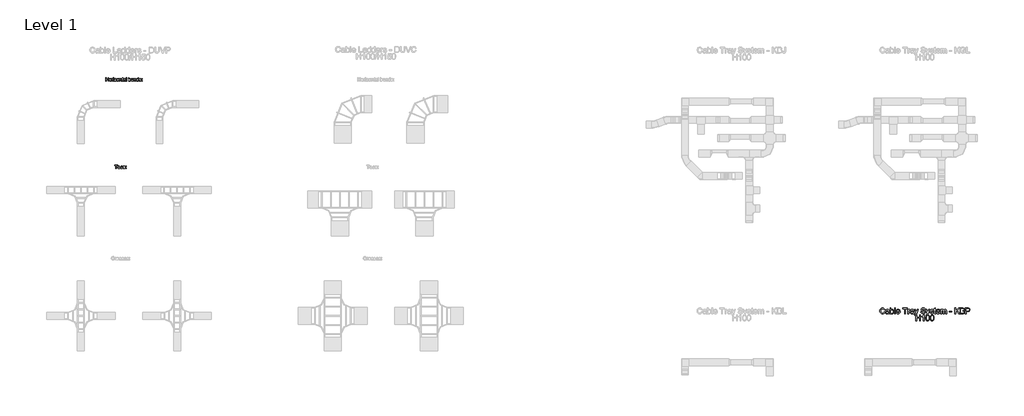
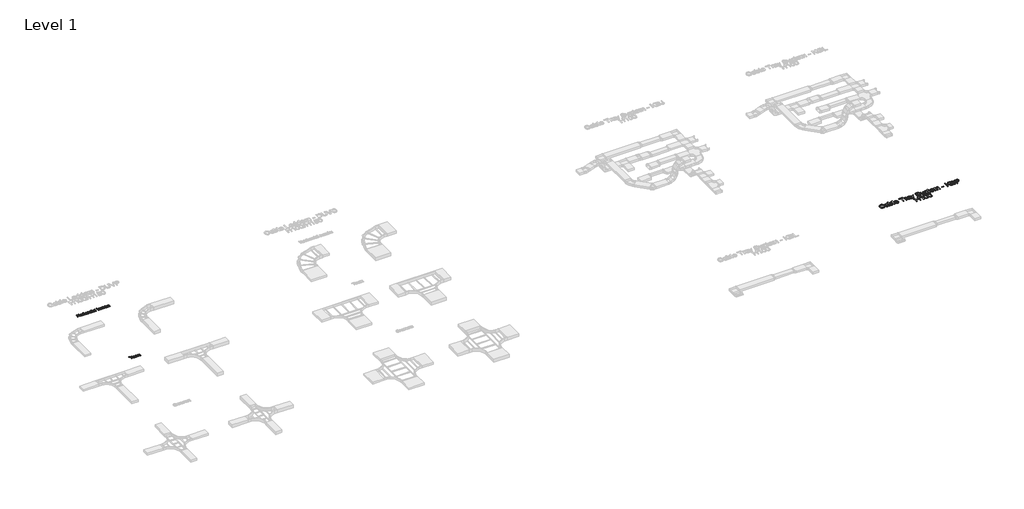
# One storey, part 100 of 106: 3 proxies.
"""IFC4 building model written with IfcOpenShell, lengths in millimetres."""

from ifc_helpers import new_model, si_unit, origin, origin_with_axes, place, context, project, spatial, polyline, outline, extrude, element, save

model = new_model("IFC4")

# Units and contexts
model_context = context("Model", 3, world=origin())
ifc_project = project(units=[si_unit("LENGTHUNIT", "METRE", prefix="MILLI")], contexts=[model_context])

# Site, building, storey
site = spatial("IfcSite", under=ifc_project)
building = spatial("IfcBuilding", under=site)
storey = spatial("IfcBuildingStorey", under=building, Name="Level 1", Elevation=0.0)

# Proxies
placement = place(None, origin())
element("IfcBuildingElementProxy", 1, Name="150mm Arial 2", ObjectType="150mm Arial 2", at=placement, inside=storey, context=model_context, shape_type="SweptSolid", body=[
    extrude(outline(polyline([(131665.8833156, 70274.2713912), (131665.8833156, 70424.9558564), (131684.7188737, 70424.9558564), (131684.7188737, 70363.7402924), (131764.7699959, 70363.7402924), (131764.7699959, 70424.9558564), (131783.605554, 70424.9558564), (131783.605554, 70274.2713912), (131764.7699959, 70274.2713912), (131764.7699959, 70344.9047343), (131684.7188737, 70344.9047343), (131684.7188737, 70274.2713912), (131665.8833156, 70274.2713912)])), origin_with_axes(), (0.0, 0.0, 1.0), 15.0),
    extrude(outline(polyline([(131809.5044465, 70329.6008433), (131813.5787396, 70356.281485), (131825.8016189, 70375.0342697), (131840.9031748, 70384.2221225), (131858.9845748, 70387.2847401), (131878.7720277, 70383.5553364), (131894.5771579, 70372.3671252), (131904.9376346, 70354.6030234), (131908.3911268, 70331.1459476), (131906.8644165, 70312.1172514), (131902.2842857, 70297.6318979), (131894.7840915, 70286.7839775), (131884.4971912, 70278.667581), (131872.2789104, 70273.6046051), (131858.9845748, 70271.9169464), (131838.9579987, 70275.6325546), (131823.1712626, 70286.779379), (131812.9211505, 70304.9159614), (131809.5044465, 70329.6008433)]), holes=[polyline([(131828.3400046, 70329.6376315), (131830.5197055, 70312.5908995), (131837.0588079, 70300.4461951), (131846.8996513, 70293.1759272), (131858.9845748, 70290.7525046), (131871.0143161, 70293.1897228), (131880.8367654, 70300.5013774), (131887.3758678, 70312.8070302), (131889.5555686, 70330.2262427), (131887.3620722, 70346.7763339), (131880.7815831, 70358.7554914), (131870.9453382, 70366.0257593), (131858.9845748, 70368.449182), (131846.8996513, 70366.0349564), (131837.0588079, 70358.7922796), (131830.5197055, 70346.6751664), (131828.3400046, 70329.6376315)])]), origin_with_axes(), (0.0, 0.0, 1.0), 15.0),
    extrude(outline(polyline([(131929.5811297, 70274.2713912), (131929.5811297, 70384.9302953), (131946.0622431, 70384.9302953), (131946.0622431, 70368.5595466), (131957.7608906, 70383.6427084), (131969.5331144, 70387.2847401), (131988.4422489, 70381.4722046), (131982.1514668, 70364.586421), (131968.907715, 70368.449182), (131958.2575312, 70364.7335738), (131951.4701084, 70354.4328779), (131948.4166879, 70332.4335346), (131948.4166879, 70274.2713912), (131929.5811297, 70274.2713912)])), origin_with_axes(), (0.0, 0.0, 1.0), 15.0),
    extrude(outline(polyline([(132000.2144728, 70406.1202983), (132000.2144728, 70424.9558564), (132019.0500309, 70424.9558564), (132019.0500309, 70406.1202983), (132000.2144728, 70406.1202983)])), origin_with_axes(), (0.0, 0.0, 1.0), 15.0),
    extrude(outline(polyline([(132000.2144728, 70274.2713912), (132000.2144728, 70384.9302953), (132019.0500309, 70384.9302953), (132019.0500309, 70274.2713912), (132000.2144728, 70274.2713912)])), origin_with_axes(), (0.0, 0.0, 1.0), 15.0),
    extrude(outline(polyline([(132035.5311443, 70274.2713912), (132035.5311443, 70292.0033034), (132100.5358929, 70366.0947372), (132081.2956645, 70366.0947372), (132040.2400339, 70366.0947372), (132040.2400339, 70384.9302953), (132127.3544903, 70384.9302953), (132127.3544903, 70368.9274285), (132069.7073817, 70303.186916), (132060.8782138, 70293.1069493), (132082.6568279, 70293.1069493), (132129.7089351, 70293.1069493), (132129.7089351, 70274.2713912), (132035.5311443, 70274.2713912)])), origin_with_axes(), (0.0, 0.0, 1.0), 15.0),
    extrude(outline(polyline([(132143.8356037, 70329.6008433), (132147.9098968, 70356.281485), (132160.1327761, 70375.0342697), (132175.234332, 70384.2221225), (132193.3157321, 70387.2847401), (132213.1031849, 70383.5553364), (132228.9083151, 70372.3671252), (132239.2687918, 70354.6030234), (132242.722284, 70331.1459476), (132241.1955737, 70312.1172514), (132236.6154429, 70297.6318979), (132229.1152487, 70286.7839775), (132218.8283484, 70278.667581), (132206.6100677, 70273.6046051), (132193.3157321, 70271.9169464), (132173.2891559, 70275.6325546), (132157.5024198, 70286.779379), (132147.2523077, 70304.9159614), (132143.8356037, 70329.6008433)]), holes=[polyline([(132162.6711619, 70329.6376315), (132164.8508627, 70312.5908995), (132171.3899651, 70300.4461951), (132181.2308085, 70293.1759272), (132193.3157321, 70290.7525046), (132205.3454733, 70293.1897228), (132215.1679226, 70300.5013774), (132221.707025, 70312.8070302), (132223.8867259, 70330.2262427), (132221.6932295, 70346.7763339), (132215.1127403, 70358.7554914), (132205.2764954, 70366.0257593), (132193.3157321, 70368.449182), (132181.2308085, 70366.0349564), (132171.3899651, 70358.7922796), (132164.8508627, 70346.6751664), (132162.6711619, 70329.6376315)])]), origin_with_axes(), (0.0, 0.0, 1.0), 15.0),
    extrude(outline(polyline([(132263.9122869, 70274.2713912), (132263.9122869, 70384.9302953), (132282.7478451, 70384.9302953), (132282.7478451, 70369.4792515), (132297.1504252, 70382.833368), (132316.8137178, 70387.2847401), (132334.6008123, 70383.6978907), (132346.7409182, 70374.2801116), (132352.3879068, 70360.4293545), (132353.3811882, 70342.2191957), (132353.3811882, 70274.2713912), (132334.54563, 70274.2713912), (132334.54563, 70339.6808099), (132332.3751262, 70356.3458643), (132324.7047866, 70365.1566381), (132311.7737345, 70368.449182), (132300.7418732, 70366.6005749), (132291.3378897, 70361.0547538), (132284.8953562, 70350.3401907), (132282.7478451, 70332.9853576), (132282.7478451, 70274.2713912), (132263.9122869, 70274.2713912)])), origin_with_axes(), (0.0, 0.0, 1.0), 15.0),
    extrude(outline(polyline([(132419.3056417, 70289.9799524), (132421.6600865, 70273.7195682), (132407.5702061, 70271.9169464), (132391.7880685, 70275.0439434), (132383.9153938, 70283.2477119), (132381.6345254, 70304.6216558), (132381.6345254, 70366.0947372), (132367.5078568, 70366.0947372), (132367.5078568, 70384.9302953), (132381.6345254, 70384.9302953), (132381.6345254, 70411.8224692), (132400.4700835, 70422.8957172), (132400.4700835, 70384.9302953), (132419.3056417, 70384.9302953), (132419.3056417, 70366.0947372), (132400.4700835, 70366.0947372), (132400.4700835, 70305.1734788), (132401.4633649, 70295.4613941), (132404.6823324, 70292.0216975), (132411.1018732, 70290.7525046), (132419.3056417, 70289.9799524)])), origin_with_axes(), (0.0, 0.0, 1.0), 15.0),
    extrude(outline(polyline([(132508.7745429, 70288.3980598), (132490.5092019, 70275.6325546), (132470.3308744, 70271.9169464), (132454.5901236, 70274.1518295), (132442.9788481, 70280.8564789), (132435.8189448, 70291.0376131), (132433.4323103, 70303.7019508), (132437.0375539, 70318.6011716), (132446.5105152, 70329.4169023), (132459.6990848, 70335.5973198), (132475.9962572, 70338.4300111), (132508.6641783, 70344.9047343), (132508.7745429, 70349.098589), (132507.4777589, 70357.5046926), (132503.5874068, 70363.0045284), (132494.8869976, 70367.0880186), (132482.7652859, 70368.449182), (132463.7089985, 70364.8255443), (132454.6223132, 70351.9680686), (132435.7867551, 70354.3225133), (132443.9353413, 70372.7166131), (132460.3428783, 70383.4955556), (132485.193307, 70387.2847401), (132508.0203848, 70383.9370139), (132520.9146488, 70375.5309104), (132526.6903961, 70362.747011), (132527.6101011, 70346.2658976), (132527.6101011, 70322.8318145), (132528.5665943, 70290.1087111), (132532.3189906, 70274.2713912), (132513.4834325, 70274.2713912), (132508.7745429, 70288.3980598)]), holes=[polyline([(132508.7745429, 70326.0691761), (132478.3874901, 70320.2934288), (132462.1822882, 70317.2400082), (132454.8430424, 70312.2736013), (132452.2678685, 70305.026326), (132457.8780689, 70294.8359947), (132474.3407882, 70290.7525046), (132493.3970755, 70295.259059), (132505.6843342, 70306.1667602), (132508.6641783, 70320.7348872), (132508.7745429, 70326.0691761)])]), origin_with_axes(), (0.0, 0.0, 1.0), 15.0),
    extrude(outline(polyline([(132553.5089935, 70274.2713912), (132553.5089935, 70424.9558564), (132572.3445517, 70424.9558564), (132572.3445517, 70274.2713912), (132553.5089935, 70274.2713912)])), origin_with_axes(), (0.0, 0.0, 1.0), 15.0),
    extrude(outline(polyline([(132678.2945663, 70274.2713912), (132659.4590082, 70274.2713912), (132659.4590082, 70424.9558564), (132678.2945663, 70424.9558564), (132678.2945663, 70369.0745813), (132691.4831358, 70382.7322004), (132707.8722787, 70387.2847401), (132726.7446251, 70383.1828559), (132741.3863285, 70371.6497553), (132750.3810433, 70353.715508), (132753.6367989, 70331.2563122), (132750.2660801, 70306.1115779), (132740.1539238, 70287.4047784), (132725.3144838, 70275.7889044), (132707.7619141, 70271.9169464), (132691.0140863, 70276.9109445), (132678.2945663, 70291.8929388), (132678.2945663, 70274.2713912)]), holes=[polyline([(132678.2945663, 70330.3733955), (132679.5821533, 70314.6648343), (132683.4449142, 70304.0330446), (132693.3133488, 70294.0726396), (132706.1432333, 70290.7525046), (132717.0141463, 70293.1989198), (132726.3031667, 70300.5381656), (132732.6767222, 70312.7242567), (132734.8012408, 70329.7112079), (132732.7640942, 70346.9464793), (132726.6526546, 70358.9946147), (132717.6533413, 70366.0855401), (132706.9525737, 70368.449182), (132696.0816608, 70366.0027667), (132686.7926404, 70358.6635209), (132680.4190848, 70346.698159), (132678.2945663, 70330.3733955)])]), origin_with_axes(), (0.0, 0.0, 1.0), 15.0),
    extrude(outline(polyline([(132852.30275, 70307.233618), (132870.7704262, 70304.8791732), (132864.1163606, 70290.9640367), (132853.4983665, 70280.5621733), (132839.1555672, 70274.0782531), (132821.327086, 70271.9169464), (132799.2265752, 70275.6463501), (132782.2212299, 70286.8345613), (132771.3779081, 70304.755013), (132767.7634675, 70328.6811383), (132771.4146963, 70353.4120054), (132782.3683827, 70371.9072727), (132799.1438017, 70383.4403733), (132820.2602282, 70387.2847401), (132840.7190657, 70383.4495703), (132857.0668219, 70371.9440609), (132867.7859835, 70353.4855818), (132871.3590374, 70328.7915029), (132871.2486728, 70323.7147313), (132786.5990257, 70323.7147313), (132789.8593799, 70309.6156539), (132797.4331504, 70299.2505787), (132808.3638442, 70292.8770231), (132821.694968, 70290.7525046), (132840.1626442, 70294.6888419), (132852.30275, 70307.233618)]), holes=[polyline([(132786.5990257, 70342.5502895), (132852.5234792, 70342.5502895), (132849.9758964, 70352.5014975), (132844.9818983, 70359.6200141), (132834.0006208, 70366.24189), (132820.1866518, 70368.449182), (132807.4901245, 70366.6879469), (132796.991692, 70361.4042417), (132789.693833, 70353.1682836), (132786.5990257, 70342.5502895)])]), origin_with_axes(), (0.0, 0.0, 1.0), 15.0),
    extrude(outline(polyline([(132890.1945955, 70274.2713912), (132890.1945955, 70384.9302953), (132909.0301537, 70384.9302953), (132909.0301537, 70369.4792515), (132923.4327338, 70382.833368), (132943.0960264, 70387.2847401), (132960.8831209, 70383.6978907), (132973.0232267, 70374.2801116), (132978.6702154, 70360.4293545), (132979.6634968, 70342.2191957), (132979.6634968, 70274.2713912), (132960.8279386, 70274.2713912), (132960.8279386, 70339.6808099), (132958.6574348, 70356.3458643), (132950.9870952, 70365.1566381), (132938.0560431, 70368.449182), (132927.0241818, 70366.6005749), (132917.6201983, 70361.0547538), (132911.1776648, 70350.3401907), (132909.0301537, 70332.9853576), (132909.0301537, 70274.2713912), (132890.1945955, 70274.2713912)])), origin_with_axes(), (0.0, 0.0, 1.0), 15.0),
    extrude(outline(polyline([(133073.8412875, 70274.2713912), (133073.8412875, 70292.0400916), (133061.3792849, 70276.9477327), (133044.1532105, 70271.9169464), (133031.9763165, 70273.7379623), (133020.829492, 70279.2010099), (133011.3933188, 70287.9244117), (133004.3483786, 70299.5264902), (132999.9613858, 70313.5381956), (132998.4990549, 70329.4904787), (133003.8885261, 70359.4728613), (133010.6207666, 70371.3646468), (133020.0385457, 70380.1110412), (133031.429092, 70385.4913154), (133044.0796341, 70387.2847401), (133061.4436643, 70382.1527863), (133073.8412875, 70368.8170639), (133073.8412875, 70424.9558564), (133092.6768457, 70424.9558564), (133092.6768457, 70274.2713912), (133073.8412875, 70274.2713912)]), holes=[polyline([(133017.3346131, 70329.5640551), (133019.4591316, 70312.5265202), (133025.8326871, 70300.4094069), (133035.0941164, 70293.1667302), (133045.8822559, 70290.7525046), (133056.6657969, 70293.0563656), (133065.6927013, 70299.9679485), (133071.804141, 70311.6160122), (133073.8412875, 70328.1293153), (133071.7673528, 70346.1831242), (133065.5455485, 70358.7003091), (133056.2887178, 70366.0119637), (133045.1097037, 70368.449182), (133034.2111996, 70366.1085328), (133025.2808642, 70359.0865852), (133019.3211758, 70347.0246543), (133017.3346131, 70329.5640551)])]), origin_with_axes(), (0.0, 0.0, 1.0), 15.0),
    extrude(outline(polyline([(133113.8668486, 70307.233618), (133132.7024067, 70309.5880627), (133135.6730539, 70301.531447), (133141.42121, 70295.6085469), (133161.3972024, 70290.7525046), (133180.6006425, 70295.2038767), (133186.8546364, 70305.6517254), (133185.2819409, 70310.4525854), (133180.5638543, 70314.1130113), (133161.1764732, 70319.4840884), (133132.8127713, 70328.6995324), (133120.4335422, 70339.4600807), (133116.2212934, 70354.6536071), (133119.6058077, 70368.6883052), (133128.8396458, 70379.4120654), (133140.8142047, 70384.9854776), (133157.0194066, 70387.2847401), (133179.9384549, 70383.5875261), (133194.5065819, 70373.5811358), (133200.9813051, 70356.6769581), (133182.1457469, 70354.3225133), (133175.0640185, 70364.7151797), (133158.4909346, 70368.449182), (133140.4647168, 70364.8807266), (133135.0568515, 70356.5665935), (133137.3009317, 70351.0851518), (133144.3274778, 70346.9280852), (133160.5510738, 70342.9181715), (133188.1974057, 70334.0522154), (133201.0364873, 70324.0090369), (133205.6901946, 70307.6382881), (133200.227147, 70289.6120704), (133184.4634035, 70276.5338655), (133161.139685, 70271.9169464), (133142.147777, 70274.1426325), (133128.2878228, 70280.8196907), (133119.0355906, 70291.8745447), (133113.8668486, 70307.233618)])), origin_with_axes(), (0.0, 0.0, 1.0), 15.0),
    extrude(outline(polyline([(133231.589087, 70366.0947372), (133231.589087, 70384.9302953), (133250.4246452, 70384.9302953), (133250.4246452, 70366.0947372), (133231.589087, 70366.0947372)])), origin_with_axes(), (0.0, 0.0, 1.0), 15.0),
    extrude(outline(polyline([(133231.589087, 70274.2713912), (133231.589087, 70293.1069493), (133250.4246452, 70293.1069493), (133250.4246452, 70274.2713912), (133231.589087, 70274.2713912)])), origin_with_axes(), (0.0, 0.0, 1.0), 15.0),
])
element("IfcBuildingElementProxy", 2, Name="150mm Arial 2", ObjectType="150mm Arial 2", at=placement, inside=storey, context=model_context, shape_type="SweptSolid", body=[
    extrude(outline(polyline([(132111.5611219, 66447.8476348), (132111.5611219, 66579.6965419), (132062.1177817, 66579.6965419), (132062.1177817, 66598.5321), (132179.8400202, 66598.5321), (132179.8400202, 66579.6965419), (132130.39668, 66579.6965419), (132130.39668, 66447.8476348), (132111.5611219, 66447.8476348)])), origin_with_axes(), (0.0, 0.0, 1.0), 15.0),
    extrude(outline(polyline([(132276.1515265, 66480.8098615), (132294.6192027, 66478.4554168), (132287.9651371, 66464.5402803), (132277.347143, 66454.1384169), (132263.0043437, 66447.6544967), (132245.1758625, 66445.49319), (132223.0753517, 66449.2225937), (132206.0700064, 66460.4108049), (132195.2266846, 66478.3312566), (132191.612244, 66502.2573819), (132195.2634728, 66526.988249), (132206.2171592, 66545.4835163), (132222.9925782, 66557.0166168), (132244.1090047, 66560.8609837), (132264.5678422, 66557.0258139), (132280.9155984, 66545.5203045), (132291.63476, 66527.0618254), (132295.2078139, 66502.3677465), (132295.0974493, 66497.2909749), (132210.4478022, 66497.2909749), (132213.7081564, 66483.1918975), (132221.2819269, 66472.8268223), (132232.2126207, 66466.4532667), (132245.5437445, 66464.3287482), (132264.0114207, 66468.2650855), (132276.1515265, 66480.8098615)]), holes=[polyline([(132210.4478022, 66516.1265331), (132276.3722557, 66516.1265331), (132273.8246729, 66526.0777411), (132268.8306748, 66533.1962577), (132257.8493973, 66539.8181336), (132244.0354283, 66542.0254255), (132231.338901, 66540.2641905), (132220.8404686, 66534.9804853), (132213.5426095, 66526.7445272), (132210.4478022, 66516.1265331)])]), origin_with_axes(), (0.0, 0.0, 1.0), 15.0),
    extrude(outline(polyline([(132391.5193202, 66480.8098615), (132409.9869964, 66478.4554168), (132403.3329308, 66464.5402803), (132392.7149367, 66454.1384169), (132378.3721374, 66447.6544967), (132360.5436562, 66445.49319), (132338.4431454, 66449.2225937), (132321.4378001, 66460.4108049), (132310.5944783, 66478.3312566), (132306.9800377, 66502.2573819), (132310.6312665, 66526.988249), (132321.5849529, 66545.4835163), (132338.3603719, 66557.0166168), (132359.4767984, 66560.8609837), (132379.9356359, 66557.0258139), (132396.2833921, 66545.5203045), (132407.0025537, 66527.0618254), (132410.5756076, 66502.3677465), (132410.465243, 66497.2909749), (132325.8155959, 66497.2909749), (132329.0759501, 66483.1918975), (132336.6497206, 66472.8268223), (132347.5804144, 66466.4532667), (132360.9115382, 66464.3287482), (132379.3792144, 66468.2650855), (132391.5193202, 66480.8098615)]), holes=[polyline([(132325.8155959, 66516.1265331), (132391.7400494, 66516.1265331), (132389.1924666, 66526.0777411), (132384.1984685, 66533.1962577), (132373.217191, 66539.8181336), (132359.403222, 66542.0254255), (132346.7066947, 66540.2641905), (132336.2082622, 66534.9804853), (132328.9104032, 66526.7445272), (132325.8155959, 66516.1265331)])]), origin_with_axes(), (0.0, 0.0, 1.0), 15.0),
    extrude(outline(polyline([(132422.3478314, 66480.8098615), (132441.1833896, 66483.1643063), (132444.1540367, 66475.1076906), (132449.9021929, 66469.1847905), (132469.8781852, 66464.3287482), (132489.0816253, 66468.7801203), (132495.3356193, 66479.227969), (132493.7629237, 66484.028829), (132489.0448371, 66487.6892549), (132469.657456, 66493.060332), (132441.2937542, 66502.275776), (132428.914525, 66513.0363243), (132424.7022762, 66528.2298507), (132428.0867905, 66542.2645488), (132437.3206286, 66552.988309), (132449.2951876, 66558.5617212), (132465.5003894, 66560.8609837), (132488.4194377, 66557.1637696), (132502.9875648, 66547.1573794), (132509.4622879, 66530.2532017), (132490.6267297, 66527.8987569), (132483.5450013, 66538.2914233), (132466.9719174, 66542.0254255), (132448.9456997, 66538.4569702), (132443.5378343, 66530.1428371), (132445.7819145, 66524.6613954), (132452.8084606, 66520.5043288), (132469.0320566, 66516.4944151), (132496.6783885, 66507.628459), (132509.5174702, 66497.5852805), (132514.1711774, 66481.2145317), (132508.7081298, 66463.188314), (132492.9443863, 66450.1101091), (132469.6206678, 66445.49319), (132450.6287598, 66447.7188761), (132436.7688056, 66454.3959343), (132427.5165734, 66465.4507882), (132422.3478314, 66480.8098615)])), origin_with_axes(), (0.0, 0.0, 1.0), 15.0),
    extrude(outline(polyline([(132540.0700699, 66539.6709808), (132540.0700699, 66558.5065389), (132558.905628, 66558.5065389), (132558.905628, 66539.6709808), (132540.0700699, 66539.6709808)])), origin_with_axes(), (0.0, 0.0, 1.0), 15.0),
    extrude(outline(polyline([(132540.0700699, 66447.8476348), (132540.0700699, 66466.6831929), (132558.905628, 66466.6831929), (132558.905628, 66447.8476348), (132540.0700699, 66447.8476348)])), origin_with_axes(), (0.0, 0.0, 1.0), 15.0),
])
element("IfcBuildingElementProxy", 3, Name="250mm Arial 3", ObjectType="250mm Arial 3", at=placement, inside=storey, context=model_context, shape_type="SweptSolid", body=[
    extrude(outline(polyline([(165651.7804894, 60192.4106539), (165683.1730863, 60184.31725), (165668.6877328, 60147.7359841), (165645.9556912, 60121.01089), (165616.0959359, 60104.6631338), (165580.2274414, 60099.2138818), (165543.814788, 60103.3372258), (165514.8977304, 60115.7072579), (165492.7328402, 60135.8947824), (165476.5766892, 60163.4706036), (165466.7128532, 60195.8902044), (165463.4249079, 60230.6090677), (165467.1420489, 60267.2286547), (165478.2934719, 60298.8511778), (165496.296697, 60324.472626), (165520.5692445, 60343.0889877), (165549.3560106, 60354.4243517), (165580.9018917, 60358.2028064), (165615.3218509, 60353.3130415), (165643.779056, 60338.643747), (165665.384459, 60315.0992993), (165679.2490117, 60283.584075), (165647.8564148, 60276.1038078), (165636.9732391, 60298.9967978), (165622.1046751, 60314.7007605), (165603.0667819, 60323.7828472), (165579.6756184, 60326.8102095), (165552.7129338, 60323.4532863), (165530.563372, 60313.3825166), (165513.7557634, 60297.6555613), (165502.8189382, 60277.3300811), (165496.8178632, 60254.3527848), (165494.8175048, 60230.6703814), (165497.1857452, 60201.6690174), (165504.2904662, 60176.5917281), (165516.3999152, 60156.3965394), (165533.7823395, 60142.0414774), (165554.6213216, 60133.4652284), (165577.1004444, 60130.6064787), (165603.3043723, 60134.4998965), (165625.1397016, 60146.1801498), (165641.6254135, 60165.5246114), (165651.7804894, 60192.4106539)])), origin_with_axes(), (0.0, 0.0, 1.0), 15.0),
    extrude(outline(polyline([(165840.1360709, 60126.6824041), (165825.1372154, 60113.8218627), (165809.6938358, 60105.406562), (165793.4533786, 60100.7620518), (165776.0632901, 60099.2138818), (165749.8287053, 60102.938687), (165730.4765796, 60114.1131026), (165718.5434073, 60131.0816596), (165714.5656833, 60152.1888891), (165716.0678681, 60165.2027147), (165720.5744225, 60177.0209238), (165736.3626915, 60195.0471415), (165758.3436407, 60205.3478374), (165785.5055947, 60210.0689897), (165839.95213, 60220.8601949), (165840.1360709, 60227.8499528), (165837.9747642, 60241.8601254), (165831.4908441, 60251.0265185), (165816.9901621, 60257.8323354), (165796.7873092, 60260.100941), (165778.0866411, 60258.591092), (165765.0268303, 60254.0615449), (165756.1210203, 60245.6845653), (165749.8823548, 60232.6324187), (165718.4897579, 60236.5564933), (165723.9390099, 60253.7243198), (165732.0707349, 60267.2133262), (165743.6436893, 60277.5293505), (165759.4166298, 60285.1782303), (165778.707442, 60289.914711), (165800.8340111, 60291.4935379), (165822.0562037, 60290.098652), (165838.8791408, 60285.9139943), (165851.5634054, 60279.6216794), (165860.3695807, 60271.9038217), (165869.9958262, 60250.5973228), (165871.5286679, 60223.1288005), (165871.5286679, 60184.0719953), (165873.1228232, 60129.5334895), (165879.3768171, 60103.1379564), (165847.9842202, 60103.1379564), (165840.1360709, 60126.6824041)]), holes=[polyline([(165840.1360709, 60189.4675979), (165789.4909829, 60179.8413524), (165762.4823131, 60174.7523181), (165750.2502368, 60166.4749732), (165745.9582802, 60154.3961811), (165748.2958637, 60145.0611754), (165755.3086142, 60137.4122956), (165766.8432476, 60132.3079329), (165782.7464797, 60130.6064787), (165799.6077378, 60132.4842097), (165814.5069586, 60138.1174028), (165826.5857508, 60146.4177403), (165834.985723, 60156.2969047), (165838.7105282, 60166.4749732), (165839.95213, 60180.5771164), (165840.1360709, 60189.4675979)])]), origin_with_axes(), (0.0, 0.0, 1.0), 15.0),
    extrude(outline(polyline([(165946.0860856, 60103.1379564), (165914.6934886, 60103.1379564), (165914.6934886, 60354.2787318), (165946.0860856, 60354.2787318), (165946.0860856, 60261.1432733), (165956.409774, 60274.4215141), (165968.0670348, 60283.9059718), (165981.0578677, 60289.5966464), (165995.3822729, 60291.4935379), (166011.5537523, 60289.7844195), (166026.8361835, 60284.6570642), (166040.3558468, 60276.4333687), (166051.2390225, 60265.4352299), (166066.2302138, 60235.5448178), (166071.6564732, 60198.1128248), (166066.0386086, 60156.2049342), (166059.0162778, 60139.2746982), (166049.1850147, 60125.0269351), (166037.3840501, 60113.7337243), (166024.4526147, 60105.6671451), (166010.3907087, 60100.8271976), (165995.1983319, 60099.2138818), (165980.4025779, 60101.2947143), (165967.2852855, 60107.5372119), (165955.8464547, 60117.9413746), (165946.0860856, 60132.5072023), (165946.0860856, 60103.1379564)]), holes=[polyline([(165946.0860856, 60196.6412968), (165948.2320639, 60170.4603615), (165954.6699988, 60152.7407121), (165971.1173896, 60136.140037), (165992.5005306, 60130.6064787), (166010.6187189, 60134.6838375), (166026.1004195, 60146.9159138), (166036.7230121, 60167.2260656), (166040.2638763, 60195.5376509), (166036.8686321, 60224.2631033), (166026.6828993, 60244.3433289), (166011.6840438, 60256.161538), (165993.8494313, 60260.100941), (165975.731243, 60256.0235822), (165960.2495424, 60243.7915059), (165949.6269498, 60223.8492361), (165946.0860856, 60196.6412968)])]), origin_with_axes(), (0.0, 0.0, 1.0), 15.0),
    extrude(outline(polyline([(166106.9731448, 60103.1379564), (166106.9731448, 60354.2787318), (166138.3657417, 60354.2787318), (166138.3657417, 60103.1379564), (166106.9731448, 60103.1379564)])), origin_with_axes(), (0.0, 0.0, 1.0), 15.0),
    extrude(outline(polyline([(166314.5812174, 60158.075001), (166345.3606777, 60154.1509264), (166334.2705683, 60130.9590323), (166316.5739115, 60113.6225933), (166292.6692461, 60102.8160596), (166262.9551107, 60099.2138818), (166243.4765255, 60100.7678), (166226.120926, 60105.4295547), (166210.8883121, 60113.1991458), (166197.7786839, 60124.0765733), (166187.2365655, 60137.759101), (166179.7064809, 60153.9439928), (166175.1884302, 60172.6312485), (166173.6824132, 60193.8208682), (166175.2037586, 60215.7290074), (166179.7677946, 60235.0389801), (166187.3745212, 60251.7507861), (166198.0239386, 60265.8644256), (166211.0990778, 60277.0771622), (166225.9829702, 60285.0862598), (166242.6756158, 60289.8917184), (166261.1770144, 60291.4935379), (166279.0825209, 60289.8955505), (166295.2750769, 60285.1015883), (166309.7546823, 60277.1116512), (166322.5213371, 60265.9257393), (166332.9427443, 60251.8427566), (166340.3866065, 60235.1616074), (166344.8529239, 60215.8822916), (166346.3416963, 60194.0048092), (166346.1577553, 60185.5435233), (166205.0750102, 60185.5435233), (166210.5089338, 60162.0450609), (166223.1318848, 60144.7699355), (166241.3497077, 60134.1473429), (166263.5682474, 60130.6064787), (166280.2762213, 60132.2466193), (166294.3477077, 60137.1670409), (166305.7827063, 60145.6743121), (166314.5812174, 60158.075001)]), holes=[polyline([(166205.0750102, 60216.9361202), (166314.9490994, 60216.9361202), (166310.703128, 60233.5214669), (166302.3797979, 60245.3856612), (166284.0776686, 60256.4221211), (166261.0543871, 60260.100941), (166239.8935082, 60257.1655493), (166222.3961208, 60248.359374), (166210.2330223, 60234.632777), (166205.0750102, 60216.9361202)])]), origin_with_axes(), (0.0, 0.0, 1.0), 15.0),
    extrude(outline(polyline([(166542.5454271, 60103.1379564), (166542.5454271, 60322.8861348), (166460.1398602, 60322.8861348), (166460.1398602, 60354.2787318), (166656.3435909, 60354.2787318), (166656.3435909, 60322.8861348), (166573.938024, 60322.8861348), (166573.938024, 60103.1379564), (166542.5454271, 60103.1379564)])), origin_with_axes(), (0.0, 0.0, 1.0), 15.0),
    extrude(outline(polyline([(166687.7361878, 60103.1379564), (166687.7361878, 60287.5694633), (166715.2047101, 60287.5694633), (166715.2047101, 60260.284882), (166725.3521218, 60276.1038078), (166734.7024559, 60285.423485), (166754.322829, 60291.4935379), (166769.9578138, 60289.0716481), (166785.8380532, 60281.8059787), (166775.3534164, 60253.6630061), (166753.2804966, 60260.100941), (166743.90717, 60258.5527709), (166735.5301904, 60253.9082608), (166724.217819, 60236.7404343), (166719.1287848, 60200.0748621), (166719.1287848, 60103.1379564), (166687.7361878, 60103.1379564)])), origin_with_axes(), (0.0, 0.0, 1.0), 15.0),
    extrude(outline(polyline([(166923.1806647, 60126.6824041), (166908.1818092, 60113.8218627), (166892.7384296, 60105.406562), (166876.4979724, 60100.7620518), (166859.1078839, 60099.2138818), (166832.8732991, 60102.938687), (166813.5211734, 60114.1131026), (166801.5880011, 60131.0816596), (166797.6102771, 60152.1888891), (166799.1124619, 60165.2027147), (166803.6190163, 60177.0209238), (166819.4072853, 60195.0471415), (166841.3882345, 60205.3478374), (166868.5501885, 60210.0689897), (166922.9967238, 60220.8601949), (166923.1806647, 60227.8499528), (166921.019358, 60241.8601254), (166914.5354379, 60251.0265185), (166900.0347559, 60257.8323354), (166879.831903, 60260.100941), (166861.1312349, 60258.591092), (166848.0714241, 60254.0615449), (166839.1656141, 60245.6845653), (166832.9269486, 60232.6324187), (166801.5343517, 60236.5564933), (166806.9836037, 60253.7243198), (166815.1153287, 60267.2133262), (166826.6882831, 60277.5293505), (166842.4612236, 60285.1782303), (166861.7520358, 60289.914711), (166883.8786049, 60291.4935379), (166905.1007975, 60290.098652), (166921.9237346, 60285.9139943), (166934.6079992, 60279.6216794), (166943.4141745, 60271.9038217), (166953.04042, 60250.5973228), (166954.5732617, 60223.1288005), (166954.5732617, 60184.0719953), (166956.167417, 60129.5334895), (166962.4214109, 60103.1379564), (166931.028814, 60103.1379564), (166923.1806647, 60126.6824041)]), holes=[polyline([(166923.1806647, 60189.4675979), (166872.5355767, 60179.8413524), (166845.5269069, 60174.7523181), (166833.2948306, 60166.4749732), (166829.002874, 60154.3961811), (166831.3404575, 60145.0611754), (166838.353208, 60137.4122956), (166849.8878414, 60132.3079329), (166865.7910735, 60130.6064787), (166882.6523316, 60132.4842097), (166897.5515524, 60138.1174028), (166909.6303446, 60146.4177403), (166918.0303168, 60156.2969047), (166921.755122, 60166.4749732), (166922.9967238, 60180.5771164), (166923.1806647, 60189.4675979)])]), origin_with_axes(), (0.0, 0.0, 1.0), 15.0),
    extrude(outline(polyline([(166997.7380824, 60032.5046133), (166993.8140078, 60062.7322506), (167009.7555609, 60059.9731356), (167024.6547818, 60063.4373577), (167033.790518, 60073.0942601), (167042.3744312, 60096.2095122), (167044.8269778, 60103.8124067), (166978.1177094, 60287.5694633), (167011.1657753, 60287.5694633), (167046.6050741, 60185.1143277), (167058.929121, 60144.1567989), (167071.2531678, 60180.3931754), (167107.6121717, 60287.5694633), (167140.4149829, 60287.5694633), (167076.2195747, 60098.7233725), (167059.5422576, 60057.7658437), (167051.0043297, 60044.6907044), (167041.3320989, 60035.6316103), (167030.111698, 60030.3433066), (167016.9292599, 60028.5805387), (166997.7380824, 60032.5046133)])), origin_with_axes(), (0.0, 0.0, 1.0), 15.0),
    extrude(outline(polyline([(167256.727007, 60189.4675979), (167288.119604, 60189.4675979), (167291.7217818, 60172.0468526), (167298.2363588, 60158.0443442), (167308.3990989, 60146.9312422), (167322.9457662, 60138.1787164), (167340.7267293, 60132.4995381), (167360.592357, 60130.6064787), (167378.0820802, 60132.0396856), (167393.3951682, 60136.3393065), (167405.8035214, 60143.1451234), (167414.5790398, 60152.0969186), (167419.7983656, 60162.3746218), (167421.5381409, 60173.1581628), (167416.3264793, 60192.7478791), (167408.3863596, 60200.4963936), (167394.9893236, 60207.0033064), (167349.2799857, 60218.990128), (167300.0757688, 60234.4718287), (167284.4484482, 60245.0331076), (167273.3736673, 60257.8323354), (167266.774784, 60272.5936004), (167264.5751563, 60289.0409913), (167267.2959502, 60307.4274268), (167275.458332, 60324.5722607), (167288.8477037, 60339.1035995), (167307.2494677, 60349.64955), (167329.3377158, 60356.0644923), (167353.7865401, 60358.2028064), (167380.2740438, 60355.9648576), (167403.4506095, 60349.2510112), (167422.4885027, 60338.1992229), (167436.559989, 60322.9474485), (167445.465799, 60304.4460498), (167449.0066632, 60283.6453887), (167417.6140663, 60283.6453887), (167411.8505817, 60302.3767136), (167399.8331032, 60315.8963769), (167381.055793, 60324.0817513), (167355.0128134, 60326.8102095), (167328.3566972, 60324.1124082), (167310.0698963, 60316.0190043), (167299.493289, 60304.1088247), (167295.9677532, 60289.9606963), (167298.4662851, 60277.8972325), (167305.9618807, 60268.1943449), (167323.6815302, 60259.5184612), (167357.2201054, 60250.6586365), (167412.7702867, 60234.9010243), (167430.6662129, 60223.5120109), (167443.1512081, 60209.455853), (167450.4858554, 60192.8858348), (167452.9307378, 60173.9552405), (167450.1179734, 60154.6031147), (167441.6796801, 60136.4006201), (167427.9607474, 60120.7349785), (167409.3060645, 60108.9934115), (167386.872927, 60101.6587642), (167361.8186303, 60099.2138818), (167331.0621627, 60101.8503694), (167305.7472829, 60109.7598323), (167285.582751, 60122.9729273), (167270.2773272, 60141.5203112), (167260.4518122, 60164.1143971), (167256.727007, 60189.4675979)])), origin_with_axes(), (0.0, 0.0, 1.0), 15.0),
    extrude(outline(polyline([(167496.0955586, 60032.5046133), (167492.171484, 60062.7322506), (167508.1130371, 60059.9731356), (167523.0122579, 60063.4373577), (167532.1479941, 60073.0942601), (167540.7319073, 60096.2095122), (167543.184454, 60103.8124067), (167476.4751855, 60287.5694633), (167509.5232514, 60287.5694633), (167544.9625503, 60185.1143277), (167557.2865971, 60144.1567989), (167569.6106439, 60180.3931754), (167605.9696478, 60287.5694633), (167638.772459, 60287.5694633), (167574.5770509, 60098.7233725), (167557.8997338, 60057.7658437), (167549.3618058, 60044.6907044), (167539.689575, 60035.6316103), (167528.4691741, 60030.3433066), (167515.286736, 60028.5805387), (167496.0955586, 60032.5046133)])), origin_with_axes(), (0.0, 0.0, 1.0), 15.0),
    extrude(outline(polyline([(167653.0585432, 60158.075001), (167684.4511401, 60161.9990756), (167689.4022186, 60148.5713828), (167698.9824789, 60138.6998826), (167713.2532346, 60132.6298297), (167732.2757995, 60130.6064787), (167751.0684381, 60132.4612171), (167764.2815331, 60138.0254323), (167772.0990255, 60146.0881793), (167774.7048563, 60155.4385134), (167772.083697, 60163.4399468), (167764.2202194, 60169.5406565), (167731.9079175, 60178.4924517), (167684.6350811, 60193.851525), (167672.671252, 60201.5693827), (167664.0030325, 60211.7857723), (167658.7377215, 60223.8492361), (167656.9826178, 60237.1083163), (167662.6234751, 60260.4994798), (167678.0132052, 60278.3724134), (167697.9708034, 60287.6614338), (167724.9794732, 60291.4935379), (167745.4122524, 60289.9530321), (167763.1778871, 60285.3315145), (167777.4639712, 60278.0811735), (167787.4580988, 60268.6541974), (167794.0799747, 60256.3531432), (167798.2493039, 60240.4805679), (167766.856707, 60236.5564933), (167762.8943114, 60246.4356577), (167755.0538263, 60253.8776039), (167743.2586099, 60258.5451067), (167727.4320199, 60260.100941), (167709.4058021, 60258.6140846), (167697.3883236, 60254.1535154), (167690.6284919, 60247.7155805), (167688.3752147, 60240.2966269), (167692.1153483, 60231.1608907), (167703.8262585, 60224.2324465), (167730.8655852, 60217.5492569), (167776.9428051, 60202.7726634), (167789.1135677, 60195.7062634), (167798.3412744, 60186.0340326), (167804.1584085, 60173.7253142), (167806.0974532, 60158.7494513), (167803.8211833, 60143.2677507), (167796.9923738, 60128.7057551), (167785.8716076, 60116.2054314), (167770.719468, 60106.9087468), (167752.4173387, 60101.137598), (167731.8466038, 60099.2138818), (167700.1934238, 60102.9233586), (167677.0935002, 60114.0517889), (167661.6731132, 60132.4765455), (167653.0585432, 60158.075001)])), origin_with_axes(), (0.0, 0.0, 1.0), 15.0),
    extrude(outline(polyline([(167908.1233932, 60129.3188917), (167912.0474678, 60102.2182514), (167888.5643338, 60099.2138818), (167873.4965004, 60100.5167972), (167862.2607711, 60104.4255434), (167849.1396466, 60118.0984909), (167845.3381993, 60153.7217307), (167845.3381993, 60256.1768664), (167821.7937516, 60256.1768664), (167821.7937516, 60287.5694633), (167845.3381993, 60287.5694633), (167845.3381993, 60332.3897531), (167876.7307962, 60350.8451665), (167876.7307962, 60287.5694633), (167908.1233932, 60287.5694633), (167908.1233932, 60256.1768664), (167876.7307962, 60256.1768664), (167876.7307962, 60154.6414357), (167878.3862652, 60138.4546279), (167883.751211, 60132.7218002), (167894.4504457, 60130.6064787), (167908.1233932, 60129.3188917)])), origin_with_axes(), (0.0, 0.0, 1.0), 15.0),
    extrude(outline(polyline([(168068.6425704, 60158.075001), (168099.4220307, 60154.1509264), (168088.3319213, 60130.9590323), (168070.6352645, 60113.6225933), (168046.7305991, 60102.8160596), (168017.0164637, 60099.2138818), (167997.5378785, 60100.7678), (167980.182279, 60105.4295547), (167964.9496651, 60113.1991458), (167951.8400369, 60124.0765733), (167941.2979185, 60137.759101), (167933.7678339, 60153.9439928), (167929.2497832, 60172.6312485), (167927.7437662, 60193.8208682), (167929.2651116, 60215.7290074), (167933.8291476, 60235.0389801), (167941.4358743, 60251.7507861), (167952.0852916, 60265.8644256), (167965.1604308, 60277.0771622), (167980.0443232, 60285.0862598), (167996.7369688, 60289.8917184), (168015.2383674, 60291.4935379), (168033.1438739, 60289.8955505), (168049.3364299, 60285.1015883), (168063.8160353, 60277.1116512), (168076.5826901, 60265.9257393), (168087.0040973, 60251.8427566), (168094.4479595, 60235.1616074), (168098.9142769, 60215.8822916), (168100.4030493, 60194.0048092), (168100.2191083, 60185.5435233), (167959.1363632, 60185.5435233), (167964.5702868, 60162.0450609), (167977.1932378, 60144.7699355), (167995.4110607, 60134.1473429), (168017.6296004, 60130.6064787), (168034.3375743, 60132.2466193), (168048.4090607, 60137.1670409), (168059.8440593, 60145.6743121), (168068.6425704, 60158.075001)]), holes=[polyline([(167959.1363632, 60216.9361202), (168069.0104524, 60216.9361202), (168064.764481, 60233.5214669), (168056.4411509, 60245.3856612), (168038.1390216, 60256.4221211), (168015.1157401, 60260.100941), (167993.9548612, 60257.1655493), (167976.4574738, 60248.359374), (167964.2943753, 60234.632777), (167959.1363632, 60216.9361202)])]), origin_with_axes(), (0.0, 0.0, 1.0), 15.0),
    extrude(outline(polyline([(168131.7956462, 60103.1379564), (168131.7956462, 60287.5694633), (168163.1882432, 60287.5694633), (168163.1882432, 60257.2191987), (168172.6305477, 60271.1603935), (168184.7706535, 60282.0818902), (168199.1946934, 60289.140626), (168215.4888001, 60291.4935379), (168232.9478665, 60289.0946407), (168246.9427107, 60281.8979492), (168257.3966908, 60270.3786442), (168264.2331645, 60255.0119067), (168275.6758274, 60270.9726204), (168288.727974, 60282.3731301), (168303.3896044, 60289.213436), (168319.6607184, 60291.4935379), (168343.2588156, 60287.6997549), (168360.7102177, 60276.3184056), (168371.4937587, 60257.0429219), (168375.0882724, 60229.5667354), (168375.0882724, 60103.1379564), (168343.6956755, 60103.1379564), (168343.6956755, 60216.0777289), (168340.7832763, 60242.2893211), (168330.2373258, 60255.1958477), (168312.3030785, 60260.100941), (168295.2962005, 60256.9586156), (168281.4316478, 60247.5316395), (168272.2116053, 60231.1762191), (168269.1382578, 60207.248561), (168269.1382578, 60103.1379564), (168237.7456608, 60103.1379564), (168237.7456608, 60219.5726079), (168235.9292435, 60237.3229141), (168230.4799914, 60249.9841861), (168220.8920669, 60257.5717523), (168206.6596323, 60260.100941), (168194.5655117, 60258.4148152), (168183.4217529, 60253.3564378), (168174.224703, 60245.048436), (168167.9707091, 60233.6134374), (168163.1882432, 60196.1507875), (168163.1882432, 60103.1379564), (168131.7956462, 60103.1379564)])), origin_with_axes(), (0.0, 0.0, 1.0), 15.0),
    extrude(outline(polyline([(168504.5827347, 60177.6953741), (168504.5827347, 60209.087971), (168602.6846001, 60209.087971), (168602.6846001, 60177.6953741), (168504.5827347, 60177.6953741)])), origin_with_axes(), (0.0, 0.0, 1.0), 15.0),
    extrude(outline(polyline([(168740.0272116, 60103.1379564), (168740.0272116, 60354.2787318), (168771.4198085, 60354.2787318), (168771.4198085, 60231.3448317), (168900.1785068, 60354.2787318), (168944.0790916, 60354.2787318), (168835.921785, 60251.0265185), (168948.0031662, 60103.1379564), (168909.6208114, 60103.1379564), (168813.6649243, 60229.8119901), (168771.4198085, 60189.4675979), (168771.4198085, 60103.1379564), (168740.0272116, 60103.1379564)])), origin_with_axes(), (0.0, 0.0, 1.0), 15.0),
    extrude(outline(polyline([(168971.5476139, 60103.1379564), (168971.5476139, 60354.2787318), (169067.3808736, 60354.2787318), (169093.7380857, 60352.4316576), (169114.3164849, 60346.890435), (169130.0894254, 60337.5171084), (169142.0302618, 60324.1737218), (169149.5488501, 60308.4774234), (169152.0550462, 60292.0453609), (169149.9473889, 60276.9238781), (169143.6244171, 60262.7067718), (169133.0401456, 60250.2677618), (169118.148589, 60240.4805679), (169135.9372163, 60231.1915475), (169149.0813334, 60217.0587476), (169157.1977299, 60199.0172014), (169159.9031954, 60178.0019424), (169158.0561212, 60160.4892266), (169152.5148987, 60144.2487694), (169144.245218, 60130.4378661), (169134.2127694, 60120.2138123), (169106.8975313, 60107.4605698), (169066.6451096, 60103.1379564), (168971.5476139, 60103.1379564)]), holes=[polyline([(169002.9402108, 60252.2527918), (169060.2684884, 60252.2527918), (169093.74575, 60254.9505931), (169105.4643243, 60259.6027675), (169113.8872892, 60266.5695328), (169118.9686593, 60275.74359), (169120.6624493, 60287.0176403), (169119.0836224, 60297.9621297), (169114.3471417, 60307.4964047), (169106.667605, 60314.9383509), (169096.2596103, 60319.6058537), (169055.9152181, 60322.8861348), (169002.9402108, 60322.8861348), (169002.9402108, 60252.2527918)]), polyline([(169002.9402108, 60134.5305533), (169067.31956, 60134.5305533), (169090.618753, 60135.7568266), (169110.3310966, 60142.5933004), (169123.3909074, 60156.5421594), (169128.5105985, 60177.6953741), (169127.0084137, 60190.8164986), (169122.5018592, 60202.0982131), (169114.6307174, 60210.9197168), (169103.0347703, 60216.6602087), (169064.2538767, 60220.8601949), (169002.9402108, 60220.8601949), (169002.9402108, 60134.5305533)])]), origin_with_axes(), (0.0, 0.0, 1.0), 15.0),
    extrude(outline(polyline([(169203.0680162, 60103.1379564), (169203.0680162, 60354.2787318), (169296.142161, 60354.2787318), (169333.6661245, 60351.8874988), (169350.3970911, 60347.4192654), (169364.1696732, 60340.1459318), (169375.2597826, 60329.737937), (169383.9433305, 60315.8657201), (169389.5535309, 60299.5026355), (169391.4235977, 60281.6220377), (169386.3728845, 60252.0228655), (169371.2207448, 60227.3594434), (169359.0863871, 60217.6488916), (169342.886167, 60210.7127832), (169322.6200844, 60206.5511181), (169298.2881393, 60205.1638964), (169234.4606131, 60205.1638964), (169234.4606131, 60103.1379564), (169203.0680162, 60103.1379564)]), holes=[polyline([(169234.4606131, 60236.5564933), (169300.1275493, 60236.5564933), (169327.9639536, 60239.4382356), (169346.3580533, 60248.0834625), (169356.6127639, 60261.9556794), (169360.0310008, 60280.5183917), (169358.015314, 60294.6205349), (169351.9682537, 60306.5153861), (169342.6409123, 60315.4671813), (169330.7843822, 60320.7401565), (169299.3917853, 60322.8861348), (169234.4606131, 60322.8861348), (169234.4606131, 60236.5564933)])]), origin_with_axes(), (0.0, 0.0, 1.0), 15.0),
    extrude(outline(polyline([(167040.9029032, 59798.2009118), (167040.9029032, 60049.3416872), (167072.2955001, 60049.3416872), (167072.2955001, 59947.3157472), (167205.714037, 59947.3157472), (167205.714037, 60049.3416872), (167237.106634, 60049.3416872), (167237.106634, 59798.2009118), (167205.714037, 59798.2009118), (167205.714037, 59915.9231502), (167072.2955001, 59915.9231502), (167072.2955001, 59798.2009118), (167040.9029032, 59798.2009118)])), origin_with_axes(), (0.0, 0.0, 1.0), 15.0),
    extrude(outline(polyline([(167397.9936932, 59798.2009118), (167366.6010963, 59798.2009118), (167366.6010963, 59993.9141332), (167336.8639683, 59972.7302617), (167303.8159024, 59956.880679), (167303.8159024, 59986.5564933), (167328.4716603, 59999.9688577), (167349.8318087, 60015.9257393), (167366.6700741, 60032.8942963), (167377.7601835, 60049.3416872), (167397.9936932, 60049.3416872), (167397.9936932, 59798.2009118)])), origin_with_axes(), (0.0, 0.0, 1.0), 15.0),
    extrude(outline(polyline([(167472.5511109, 59921.7479485), (167474.8580376, 59961.9467207), (167481.7788176, 59994.0061037), (167493.2444731, 60018.4166069), (167509.1860262, 60035.6687397), (167529.7184401, 60045.9234503), (167554.9566778, 60049.3416872), (167574.3011394, 60047.3183362), (167591.62225, 60041.2482833), (167606.1076035, 60031.3691189), (167616.944794, 60017.9184334), (167631.6600738, 59980.7623519), (167635.936702, 59955.0489333), (167637.3622447, 59921.7479485), (167635.0783107, 59881.7791026), (167628.2265085, 59849.7963616), (167616.8298309, 59825.3628658), (167600.9112704, 59808.0417552), (167580.3328713, 59797.7180667), (167554.9566778, 59794.2768372), (167537.666224, 59795.7713578), (167522.3378076, 59800.2549196), (167508.9714284, 59807.7275226), (167497.5670866, 59818.1891669), (167486.6225972, 59837.1006007), (167478.8051048, 59860.6642089), (167474.1146094, 59888.8799915), (167472.5511109, 59921.7479485)]), holes=[polyline([(167503.9437078, 59921.8092622), (167507.6225278, 59872.4287685), (167512.2210527, 59855.5387696), (167518.6589876, 59843.848936), (167535.0910501, 59830.2143096), (167554.9566778, 59825.6694341), (167574.8223055, 59830.229638), (167591.254368, 59843.9102497), (167597.6923029, 59855.6192438), (167602.2908278, 59872.5054106), (167605.9696478, 59921.8092622), (167602.4134552, 59970.0784456), (167597.9682144, 59986.912879), (167591.7448773, 59998.8805402), (167575.3434717, 60013.1819527), (167554.5887958, 60017.9490902), (167534.9377659, 60013.7491041), (167519.1494969, 60001.1491458), (167512.4969642, 59988.1199918), (167507.7451551, 59970.5536265), (167503.9437078, 59921.8092622)])]), origin_with_axes(), (0.0, 0.0, 1.0), 15.0),
    extrude(outline(polyline([(167664.830767, 59921.7479485), (167667.1376937, 59961.9467207), (167674.0584737, 59994.0061037), (167685.5241293, 60018.4166069), (167701.4656824, 60035.6687397), (167721.9980962, 60045.9234503), (167747.2363339, 60049.3416872), (167766.5807955, 60047.3183362), (167783.9019061, 60041.2482833), (167798.3872597, 60031.3691189), (167809.2244501, 60017.9184334), (167823.9397299, 59980.7623519), (167828.2163581, 59955.0489333), (167829.6419009, 59921.7479485), (167827.3579668, 59881.7791026), (167820.5061647, 59849.7963616), (167809.109487, 59825.3628658), (167793.1909265, 59808.0417552), (167772.6125274, 59797.7180667), (167747.2363339, 59794.2768372), (167729.9458802, 59795.7713578), (167714.6174637, 59800.2549196), (167701.2510845, 59807.7275226), (167689.8467427, 59818.1891669), (167678.9022533, 59837.1006007), (167671.0847609, 59860.6642089), (167666.3942655, 59888.8799915), (167664.830767, 59921.7479485)]), holes=[polyline([(167696.2233639, 59921.8092622), (167699.9021839, 59872.4287685), (167704.5007088, 59855.5387696), (167710.9386438, 59843.848936), (167727.3707062, 59830.2143096), (167747.2363339, 59825.6694341), (167767.1019617, 59830.229638), (167783.5340241, 59843.9102497), (167789.9719591, 59855.6192438), (167794.570484, 59872.5054106), (167798.2493039, 59921.8092622), (167794.6931113, 59970.0784456), (167790.2478705, 59986.912879), (167784.0245335, 59998.8805402), (167767.6231278, 60013.1819527), (167746.8684519, 60017.9490902), (167727.217422, 60013.7491041), (167711.4291531, 60001.1491458), (167704.7766203, 59988.1199918), (167700.0248112, 59970.5536265), (167696.2233639, 59921.8092622)])]), origin_with_axes(), (0.0, 0.0, 1.0), 15.0),
])

save(model, "model.ifc")
